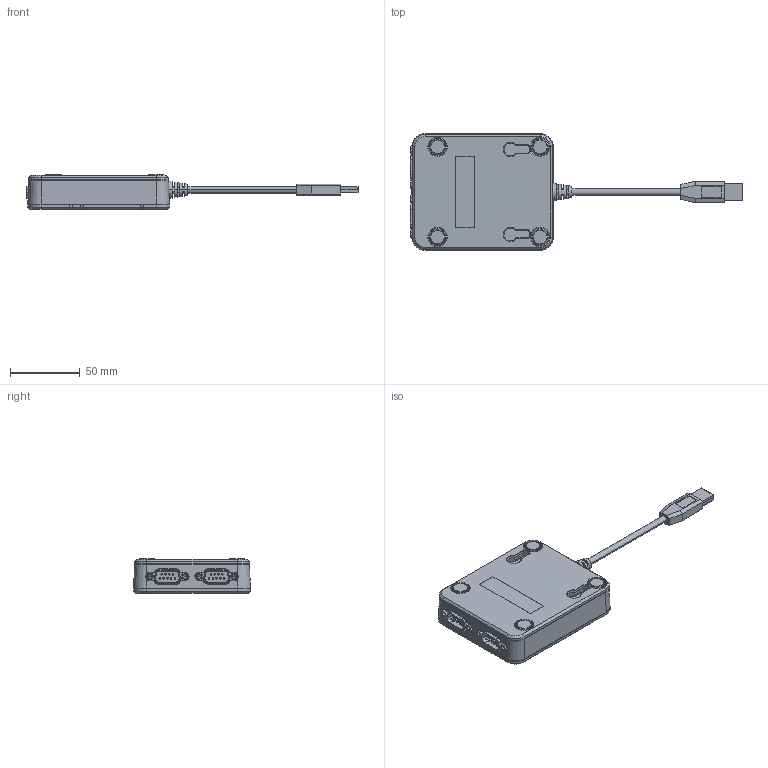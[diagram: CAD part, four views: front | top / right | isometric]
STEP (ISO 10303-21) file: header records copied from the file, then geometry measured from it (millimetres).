
FILE_DESCRIPTION((''),'2;1');
FILE_NAME('CU_USB-850X_2PORT','2017-10-26T',('dkendric'),(''),'CREO PARAMETRIC BY PTC INC, 2015380','CREO PARAMETRIC BY PTC INC, 2015380','');
FILE_SCHEMA(('CONFIG_CONTROL_DESIGN'));
Products named in the file (1): CU_USB-850X_2PORT
Bounding box: 238.28 x 83.82 x 24.89 mm (x, y, z)
Volume: 71556 mm3; surface area: 68079.2 mm2
Topology: 4 solids, 4 shells, 3888 faces, 9437 edges, 5584 vertices
Faces by surface type: plane 1376, cylinder 1270, bspline 543, cone 244, torus 242, sphere 213
Entity records: 146498 total; most frequent: CARTESIAN_POINT 60275, ORIENTED_EDGE 18714, DIRECTION 16986, EDGE_CURVE 9357, AXIS2_PLACEMENT_3D 6122, VERTEX_POINT 5584, VECTOR 4742, LINE 4742
